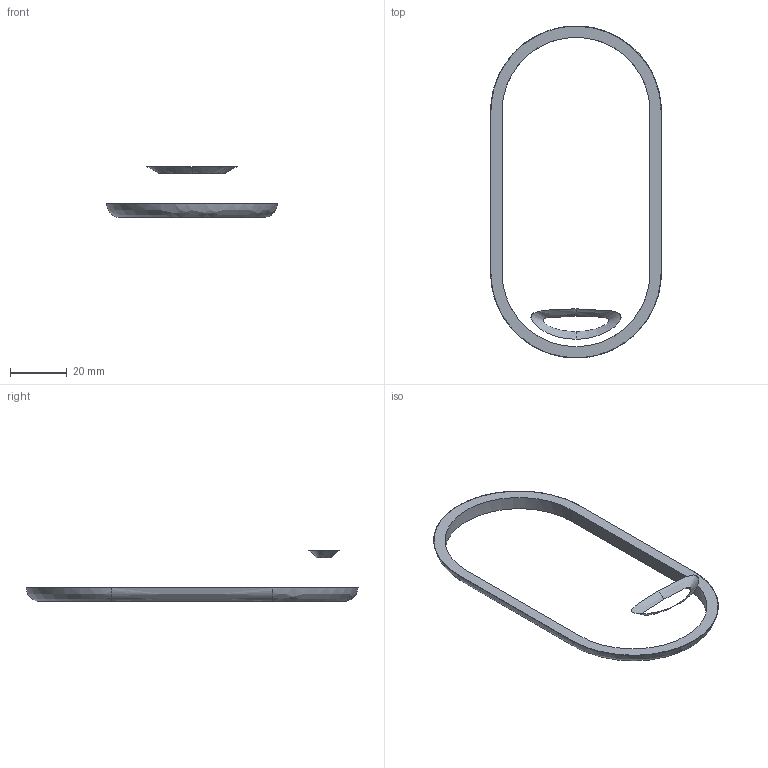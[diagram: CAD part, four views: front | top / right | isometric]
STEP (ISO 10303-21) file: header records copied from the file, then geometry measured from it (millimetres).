
FILE_DESCRIPTION((''),'2;1');
FILE_NAME('ID-GTC-REAR-RING_PRT','2008-06-30T',('GRA'),(''),'PRO/ENGINEER BY PARAMETRIC TECHNOLOGY CORPORATION, 2006170','PRO/ENGINEER BY PARAMETRIC TECHNOLOGY CORPORATION, 2006170','');
FILE_SCHEMA(('CONFIG_CONTROL_DESIGN'));
Length unit declared in the file: millimetre
Products named in the file (1): ID-GTC-REAR-RING_PRT
Bounding box: 59.99 x 116.66 x 17.86 mm (x, y, z)
Volume: 4053.7 mm3; surface area: 4673.3 mm2
Topology: 1 solids, 2 shells, 15 faces, 34 edges, 20 vertices
Faces by surface type: bspline 6, cylinder 4, plane 3, extrusion 2
Entity records: 1455 total; most frequent: CARTESIAN_POINT 1119, ORIENTED_EDGE 64, DIRECTION 42, EDGE_CURVE 34, VERTEX_POINT 20, B_SPLINE_CURVE_WITH_KNOTS 18, EDGE_LOOP 16, FACE_OUTER_BOUND 15
